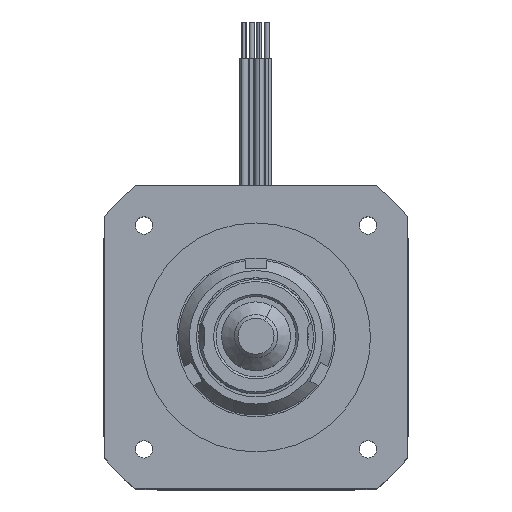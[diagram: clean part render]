
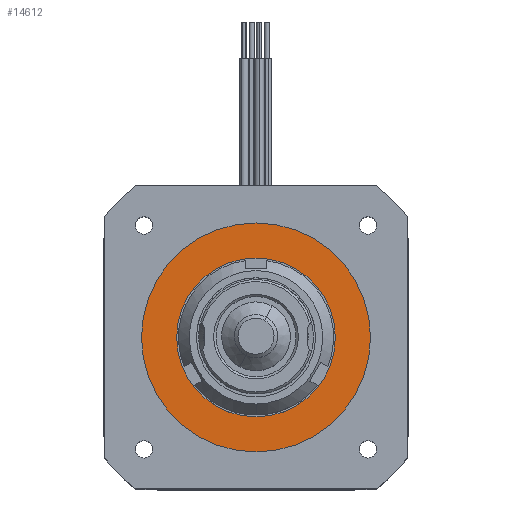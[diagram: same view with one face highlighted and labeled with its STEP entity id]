
A CAD part, top view. The second image highlights one B-rep face of the part: STEP entity #14612.
In plain terms, the highlighted planar face has unit normal (0, 0, 1).
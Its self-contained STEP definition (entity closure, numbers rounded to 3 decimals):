
#81 = ORIENTED_EDGE ( 'NONE', *, *, #12923, .T. ) ;
#1666 = DIRECTION ( 'NONE',  ( 1., 0., 0. ) ) ;
#1667 = DIRECTION ( 'NONE',  ( 0., 0., 1. ) ) ;
#1668 = CARTESIAN_POINT ( 'NONE',  ( 2.432, 10.78, 22.88 ) ) ;
#2888 = AXIS2_PLACEMENT_3D ( 'NONE', #1668, #1667, #1666 ) ;
#3582 = CIRCLE ( 'NONE', #5520, 15.875 ) ;
#4492 = CARTESIAN_POINT ( 'NONE',  ( 13.432, 10.78, 22.88 ) ) ;
#5337 = FACE_BOUND ( 'NONE', #7676, .T. ) ;
#5382 = AXIS2_PLACEMENT_3D ( 'NONE', #10218, #10217, #10216 ) ;
#5403 = FACE_OUTER_BOUND ( 'NONE', #7674, .T. ) ;
#5520 = AXIS2_PLACEMENT_3D ( 'NONE', #6171, #6172, #6173 ) ;
#6171 = CARTESIAN_POINT ( 'NONE',  ( 2.432, 10.78, 22.88 ) ) ;
#6172 = DIRECTION ( 'NONE',  ( 0., 0., 1. ) ) ;
#6173 = DIRECTION ( 'NONE',  ( 1., 0., 0. ) ) ;
#6882 = ORIENTED_EDGE ( 'NONE', *, *, #15142, .T. ) ;
#6952 = ORIENTED_EDGE ( 'NONE', *, *, #12910, .F. ) ;
#6960 = ORIENTED_EDGE ( 'NONE', *, *, #13356, .F. ) ;
#7674 = EDGE_LOOP ( 'NONE', ( #6882, #81 ) ) ;
#7676 = EDGE_LOOP ( 'NONE', ( #6960, #6952 ) ) ;
#8503 = AXIS2_PLACEMENT_3D ( 'NONE', #12108, #12150, #12152 ) ;
#8553 = AXIS2_PLACEMENT_3D ( 'NONE', #12253, #12257, #12260 ) ;
#8581 = VERTEX_POINT ( 'NONE', #4492 ) ;
#9260 = VERTEX_POINT ( 'NONE', #12046 ) ;
#9451 = VERTEX_POINT ( 'NONE', #11401 ) ;
#9554 = VERTEX_POINT ( 'NONE', #11587 ) ;
#10216 = DIRECTION ( 'NONE',  ( 1., 0., 0. ) ) ;
#10217 = DIRECTION ( 'NONE',  ( 0., 0., 1. ) ) ;
#10218 = CARTESIAN_POINT ( 'NONE',  ( 2.432, 10.78, 22.88 ) ) ;
#10219 = PLANE ( 'NONE',  #5382 ) ;
#11401 = CARTESIAN_POINT ( 'NONE',  ( -13.443, 10.78, 22.88 ) ) ;
#11587 = CARTESIAN_POINT ( 'NONE',  ( -8.568, 10.78, 22.88 ) ) ;
#12046 = CARTESIAN_POINT ( 'NONE',  ( 18.307, 10.78, 22.88 ) ) ;
#12108 = CARTESIAN_POINT ( 'NONE',  ( 2.432, 10.78, 22.88 ) ) ;
#12150 = DIRECTION ( 'NONE',  ( 0., 0., 1. ) ) ;
#12152 = DIRECTION ( 'NONE',  ( 1., 0., 0. ) ) ;
#12253 = CARTESIAN_POINT ( 'NONE',  ( 2.432, 10.78, 22.88 ) ) ;
#12257 = DIRECTION ( 'NONE',  ( 0., 0., 1. ) ) ;
#12260 = DIRECTION ( 'NONE',  ( 1., 0., 0. ) ) ;
#12451 = CIRCLE ( 'NONE', #8503, 11. ) ;
#12462 = CIRCLE ( 'NONE', #8553, 15.875 ) ;
#12675 = CIRCLE ( 'NONE', #2888, 11. ) ;
#12910 = EDGE_CURVE ( 'NONE', #8581, #9554, #12451, .T. ) ;
#12923 = EDGE_CURVE ( 'NONE', #9451, #9260, #12462, .T. ) ;
#13356 = EDGE_CURVE ( 'NONE', #9554, #8581, #12675, .T. ) ;
#14612 = ADVANCED_FACE ( 'NONE', ( #5337, #5403 ), #10219, .T. ) ;
#15142 = EDGE_CURVE ( 'NONE', #9260, #9451, #3582, .T. ) ;
